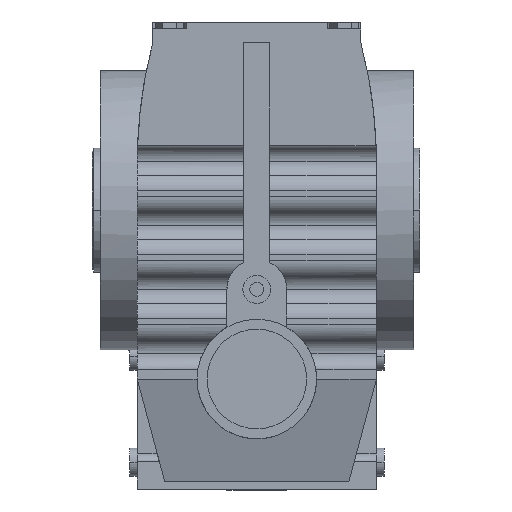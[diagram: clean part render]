
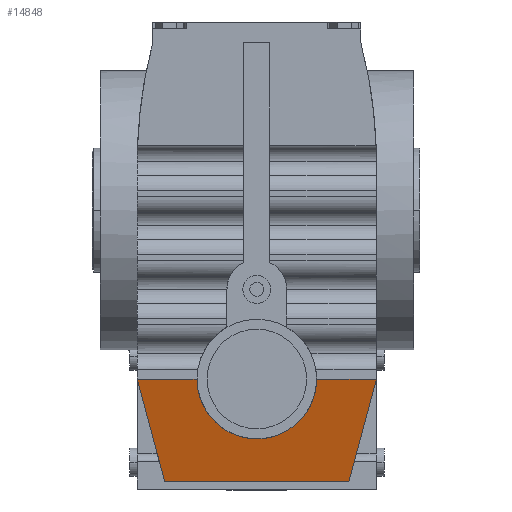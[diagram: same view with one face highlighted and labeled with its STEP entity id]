
A CAD part, top view. The second image highlights one B-rep face of the part: STEP entity #14848.
In plain terms, the highlighted planar face has unit normal (0, -0.277, 0.961).
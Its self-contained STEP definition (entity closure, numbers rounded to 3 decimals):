
#4275 = VERTEX_POINT('',#4276);
#4276 = CARTESIAN_POINT('',(77.,-75.,270.5));
#4290 = PLANE('',#4291);
#4291 = AXIS2_PLACEMENT_3D('',#4292,#4293,#4294);
#4292 = CARTESIAN_POINT('',(77.,155.,270.5));
#4293 = DIRECTION('',(0.,0.,-1.));
#4294 = DIRECTION('',(-1.,0.,0.));
#4318 = PLANE('',#4319);
#4319 = AXIS2_PLACEMENT_3D('',#4320,#4321,#4322);
#4320 = CARTESIAN_POINT('',(77.,-75.,-3.));
#4321 = DIRECTION('',(0.966,-0.259,0.));
#4322 = DIRECTION('',(0.259,0.966,0.));
#8262 = PLANE('',#8263);
#8263 = AXIS2_PLACEMENT_3D('',#8264,#8265,#8266);
#8264 = CARTESIAN_POINT('',(-77.,-75.,-3.));
#8265 = DIRECTION('',(-0.966,-0.259,0.));
#8266 = DIRECTION('',(0.259,-0.966,0.));
#8407 = PLANE('',#8408);
#8408 = AXIS2_PLACEMENT_3D('',#8409,#8410,#8411);
#8409 = CARTESIAN_POINT('',(77.,-141.,45.5));
#8410 = DIRECTION('',(0.,1.,0.));
#8411 = DIRECTION('',(0.,0.,1.));
#8764 = EDGE_CURVE('',#4275,#8765,#8767,.T.);
#8765 = VERTEX_POINT('',#8766);
#8766 = CARTESIAN_POINT('',(59.315,-141.,251.5));
#8767 = SURFACE_CURVE('',#8768,(#8772,#8779),.PCURVE_S1.);
#8768 = LINE('',#8769,#8770);
#8769 = CARTESIAN_POINT('',(60.415,-136.896,
    252.681));
#8770 = VECTOR('',#8771,1.);
#8771 = DIRECTION('',(-0.249,-0.931,-0.268));
#8772 = PCURVE('',#4318,#8773);
#8773 = DEFINITIONAL_REPRESENTATION('',(#8774),#8778);
#8774 = LINE('',#8775,#8776);
#8775 = CARTESIAN_POINT('',(-64.08,255.681));
#8776 = VECTOR('',#8777,1.);
#8777 = DIRECTION('',(-0.963,-0.268));
#8778 = ( GEOMETRIC_REPRESENTATION_CONTEXT(2) 
PARAMETRIC_REPRESENTATION_CONTEXT() REPRESENTATION_CONTEXT('2D SPACE',''
  ) );
#8779 = PCURVE('',#8780,#8785);
#8780 = PLANE('',#8781);
#8781 = AXIS2_PLACEMENT_3D('',#8782,#8783,#8784);
#8782 = CARTESIAN_POINT('',(77.,-141.,251.5));
#8783 = DIRECTION('',(0.,0.277,-0.961));
#8784 = DIRECTION('',(0.,0.961,0.277));
#8785 = DEFINITIONAL_REPRESENTATION('',(#8786),#8790);
#8786 = LINE('',#8787,#8788);
#8787 = CARTESIAN_POINT('',(4.271,-16.585));
#8788 = VECTOR('',#8789,1.);
#8789 = DIRECTION('',(-0.968,-0.249));
#8790 = ( GEOMETRIC_REPRESENTATION_CONTEXT(2) 
PARAMETRIC_REPRESENTATION_CONTEXT() REPRESENTATION_CONTEXT('2D SPACE',''
  ) );
#10200 = VERTEX_POINT('',#10201);
#10201 = CARTESIAN_POINT('',(38.5,-75.,270.5));
#10226 = EDGE_CURVE('',#4275,#10200,#10227,.T.);
#10227 = SURFACE_CURVE('',#10228,(#10232,#10239),.PCURVE_S1.);
#10228 = LINE('',#10229,#10230);
#10229 = CARTESIAN_POINT('',(77.,-75.,270.5));
#10230 = VECTOR('',#10231,1.);
#10231 = DIRECTION('',(-1.,0.,0.));
#10232 = PCURVE('',#4290,#10233);
#10233 = DEFINITIONAL_REPRESENTATION('',(#10234),#10238);
#10234 = LINE('',#10235,#10236);
#10235 = CARTESIAN_POINT('',(0.,-230.));
#10236 = VECTOR('',#10237,1.);
#10237 = DIRECTION('',(1.,0.));
#10238 = ( GEOMETRIC_REPRESENTATION_CONTEXT(2) 
PARAMETRIC_REPRESENTATION_CONTEXT() REPRESENTATION_CONTEXT('2D SPACE',''
  ) );
#10239 = PCURVE('',#8780,#10240);
#10240 = DEFINITIONAL_REPRESENTATION('',(#10241),#10245);
#10241 = LINE('',#10242,#10243);
#10242 = CARTESIAN_POINT('',(68.68,0.));
#10243 = VECTOR('',#10244,1.);
#10244 = DIRECTION('',(0.,-1.));
#10245 = ( GEOMETRIC_REPRESENTATION_CONTEXT(2) 
PARAMETRIC_REPRESENTATION_CONTEXT() REPRESENTATION_CONTEXT('2D SPACE',''
  ) );
#12429 = CYLINDRICAL_SURFACE('',#12430,38.5);
#12430 = AXIS2_PLACEMENT_3D('',#12431,#12432,#12433);
#12431 = CARTESIAN_POINT('',(0.,-75.,274.5));
#12432 = DIRECTION('',(0.,0.,-1.));
#12433 = DIRECTION('',(-1.,0.,0.));
#12919 = VERTEX_POINT('',#12920);
#12920 = CARTESIAN_POINT('',(-38.5,-75.,270.5));
#12934 = PLANE('',#12935);
#12935 = AXIS2_PLACEMENT_3D('',#12936,#12937,#12938);
#12936 = CARTESIAN_POINT('',(77.,155.,270.5));
#12937 = DIRECTION('',(0.,0.,-1.));
#12938 = DIRECTION('',(-1.,0.,0.));
#13417 = VERTEX_POINT('',#13418);
#13418 = CARTESIAN_POINT('',(-77.,-75.,270.5));
#14591 = EDGE_CURVE('',#8765,#14592,#14594,.T.);
#14592 = VERTEX_POINT('',#14593);
#14593 = CARTESIAN_POINT('',(-59.315,-141.,251.5));
#14594 = SURFACE_CURVE('',#14595,(#14599,#14606),.PCURVE_S1.);
#14595 = LINE('',#14596,#14597);
#14596 = CARTESIAN_POINT('',(77.,-141.,251.5));
#14597 = VECTOR('',#14598,1.);
#14598 = DIRECTION('',(-1.,0.,0.));
#14599 = PCURVE('',#8407,#14600);
#14600 = DEFINITIONAL_REPRESENTATION('',(#14601),#14605);
#14601 = LINE('',#14602,#14603);
#14602 = CARTESIAN_POINT('',(206.,0.));
#14603 = VECTOR('',#14604,1.);
#14604 = DIRECTION('',(0.,-1.));
#14605 = ( GEOMETRIC_REPRESENTATION_CONTEXT(2) 
PARAMETRIC_REPRESENTATION_CONTEXT() REPRESENTATION_CONTEXT('2D SPACE',''
  ) );
#14606 = PCURVE('',#8780,#14607);
#14607 = DEFINITIONAL_REPRESENTATION('',(#14608),#14612);
#14608 = LINE('',#14609,#14610);
#14609 = CARTESIAN_POINT('',(0.,0.));
#14610 = VECTOR('',#14611,1.);
#14611 = DIRECTION('',(0.,-1.));
#14612 = ( GEOMETRIC_REPRESENTATION_CONTEXT(2) 
PARAMETRIC_REPRESENTATION_CONTEXT() REPRESENTATION_CONTEXT('2D SPACE',''
  ) );
#14732 = EDGE_CURVE('',#14592,#13417,#14733,.T.);
#14733 = SURFACE_CURVE('',#14734,(#14738,#14745),.PCURVE_S1.);
#14734 = LINE('',#14735,#14736);
#14735 = CARTESIAN_POINT('',(-50.839,-172.633,
    242.394));
#14736 = VECTOR('',#14737,1.);
#14737 = DIRECTION('',(-0.249,0.931,0.268));
#14738 = PCURVE('',#8262,#14739);
#14739 = DEFINITIONAL_REPRESENTATION('',(#14740),#14744);
#14740 = LINE('',#14741,#14742);
#14741 = CARTESIAN_POINT('',(101.077,245.394));
#14742 = VECTOR('',#14743,1.);
#14743 = DIRECTION('',(-0.963,0.268));
#14744 = ( GEOMETRIC_REPRESENTATION_CONTEXT(2) 
PARAMETRIC_REPRESENTATION_CONTEXT() REPRESENTATION_CONTEXT('2D SPACE',''
  ) );
#14745 = PCURVE('',#8780,#14746);
#14746 = DEFINITIONAL_REPRESENTATION('',(#14747),#14751);
#14747 = LINE('',#14748,#14749);
#14748 = CARTESIAN_POINT('',(-32.918,-127.839));
#14749 = VECTOR('',#14750,1.);
#14750 = DIRECTION('',(0.968,-0.249));
#14751 = ( GEOMETRIC_REPRESENTATION_CONTEXT(2) 
PARAMETRIC_REPRESENTATION_CONTEXT() REPRESENTATION_CONTEXT('2D SPACE',''
  ) );
#14848 = ADVANCED_FACE('',(#14849),#8780,.F.);
#14849 = FACE_BOUND('',#14850,.T.);
#14850 = EDGE_LOOP('',(#14851,#14896,#14917,#14918,#14919,#14920));
#14851 = ORIENTED_EDGE('',*,*,#14852,.F.);
#14852 = EDGE_CURVE('',#12919,#10200,#14853,.T.);
#14853 = SURFACE_CURVE('',#14854,(#14859,#14867),.PCURVE_S1.);
#14854 = ( BOUNDED_CURVE() B_SPLINE_CURVE(3,(#14855,#14856,#14857,#14858
),.UNSPECIFIED.,.F.,.F.) B_SPLINE_CURVE_WITH_KNOTS((4,4),(4.712
,7.854),.PIECEWISE_BEZIER_KNOTS.) CURVE() 
GEOMETRIC_REPRESENTATION_ITEM() RATIONAL_B_SPLINE_CURVE((1.,
0.333,0.333,1.)) REPRESENTATION_ITEM('') );
#14855 = CARTESIAN_POINT('',(-38.5,-75.,270.5));
#14856 = CARTESIAN_POINT('',(-38.5,-152.,248.333));
#14857 = CARTESIAN_POINT('',(38.5,-152.,248.333));
#14858 = CARTESIAN_POINT('',(38.5,-75.,270.5));
#14859 = PCURVE('',#8780,#14860);
#14860 = DEFINITIONAL_REPRESENTATION('',(#14861),#14866);
#14861 = ( BOUNDED_CURVE() B_SPLINE_CURVE(3,(#14862,#14863,#14864,#14865
),.UNSPECIFIED.,.F.,.F.) B_SPLINE_CURVE_WITH_KNOTS((4,4),(4.712
,7.854),.PIECEWISE_BEZIER_KNOTS.) CURVE() 
GEOMETRIC_REPRESENTATION_ITEM() RATIONAL_B_SPLINE_CURVE((1.,
0.333,0.333,1.)) REPRESENTATION_ITEM('') );
#14862 = CARTESIAN_POINT('',(68.68,-115.5));
#14863 = CARTESIAN_POINT('',(-11.447,-115.5));
#14864 = CARTESIAN_POINT('',(-11.447,-38.5));
#14865 = CARTESIAN_POINT('',(68.68,-38.5));
#14866 = ( GEOMETRIC_REPRESENTATION_CONTEXT(2) 
PARAMETRIC_REPRESENTATION_CONTEXT() REPRESENTATION_CONTEXT('2D SPACE',''
  ) );
#14867 = PCURVE('',#12429,#14868);
#14868 = DEFINITIONAL_REPRESENTATION('',(#14869),#14895);
#14869 = B_SPLINE_CURVE_WITH_KNOTS('',3,(#14870,#14871,#14872,#14873,
    #14874,#14875,#14876,#14877,#14878,#14879,#14880,#14881,#14882,
    #14883,#14884,#14885,#14886,#14887,#14888,#14889,#14890,#14891,
    #14892,#14893,#14894),.UNSPECIFIED.,.F.,.F.,(4,1,1,1,1,1,1,1,1,1,1,1
    ,1,1,1,1,1,1,1,1,1,1,4),(4.712,4.855,
    4.998,5.141,5.284,5.426,
    5.569,5.712,5.855,5.998,
    6.14,6.283,6.426,6.569,
    6.712,6.854,6.997,7.14,
    7.283,7.426,7.568,7.711,
    7.854),.QUASI_UNIFORM_KNOTS.);
#14870 = CARTESIAN_POINT('',(6.283,4.));
#14871 = CARTESIAN_POINT('',(6.253,4.335));
#14872 = CARTESIAN_POINT('',(6.19,5.039));
#14873 = CARTESIAN_POINT('',(6.085,6.181));
#14874 = CARTESIAN_POINT('',(5.972,7.405));
#14875 = CARTESIAN_POINT('',(5.848,8.689));
#14876 = CARTESIAN_POINT('',(5.713,10.003));
#14877 = CARTESIAN_POINT('',(5.567,11.301));
#14878 = CARTESIAN_POINT('',(5.412,12.52));
#14879 = CARTESIAN_POINT('',(5.246,13.587));
#14880 = CARTESIAN_POINT('',(5.073,14.424));
#14881 = CARTESIAN_POINT('',(4.894,14.96));
#14882 = CARTESIAN_POINT('',(4.712,15.145));
#14883 = CARTESIAN_POINT('',(4.531,14.96));
#14884 = CARTESIAN_POINT('',(4.352,14.424));
#14885 = CARTESIAN_POINT('',(4.179,13.587));
#14886 = CARTESIAN_POINT('',(4.013,12.52));
#14887 = CARTESIAN_POINT('',(3.857,11.301));
#14888 = CARTESIAN_POINT('',(3.712,10.003));
#14889 = CARTESIAN_POINT('',(3.577,8.689));
#14890 = CARTESIAN_POINT('',(3.453,7.405));
#14891 = CARTESIAN_POINT('',(3.339,6.181));
#14892 = CARTESIAN_POINT('',(3.235,5.039));
#14893 = CARTESIAN_POINT('',(3.172,4.335));
#14894 = CARTESIAN_POINT('',(3.142,4.));
#14895 = ( GEOMETRIC_REPRESENTATION_CONTEXT(2) 
PARAMETRIC_REPRESENTATION_CONTEXT() REPRESENTATION_CONTEXT('2D SPACE',''
  ) );
#14896 = ORIENTED_EDGE('',*,*,#14897,.T.);
#14897 = EDGE_CURVE('',#12919,#13417,#14898,.T.);
#14898 = SURFACE_CURVE('',#14899,(#14903,#14910),.PCURVE_S1.);
#14899 = LINE('',#14900,#14901);
#14900 = CARTESIAN_POINT('',(77.,-75.,270.5));
#14901 = VECTOR('',#14902,1.);
#14902 = DIRECTION('',(-1.,0.,0.));
#14903 = PCURVE('',#8780,#14904);
#14904 = DEFINITIONAL_REPRESENTATION('',(#14905),#14909);
#14905 = LINE('',#14906,#14907);
#14906 = CARTESIAN_POINT('',(68.68,0.));
#14907 = VECTOR('',#14908,1.);
#14908 = DIRECTION('',(0.,-1.));
#14909 = ( GEOMETRIC_REPRESENTATION_CONTEXT(2) 
PARAMETRIC_REPRESENTATION_CONTEXT() REPRESENTATION_CONTEXT('2D SPACE',''
  ) );
#14910 = PCURVE('',#12934,#14911);
#14911 = DEFINITIONAL_REPRESENTATION('',(#14912),#14916);
#14912 = LINE('',#14913,#14914);
#14913 = CARTESIAN_POINT('',(0.,-230.));
#14914 = VECTOR('',#14915,1.);
#14915 = DIRECTION('',(1.,0.));
#14916 = ( GEOMETRIC_REPRESENTATION_CONTEXT(2) 
PARAMETRIC_REPRESENTATION_CONTEXT() REPRESENTATION_CONTEXT('2D SPACE',''
  ) );
#14917 = ORIENTED_EDGE('',*,*,#14732,.F.);
#14918 = ORIENTED_EDGE('',*,*,#14591,.F.);
#14919 = ORIENTED_EDGE('',*,*,#8764,.F.);
#14920 = ORIENTED_EDGE('',*,*,#10226,.T.);
